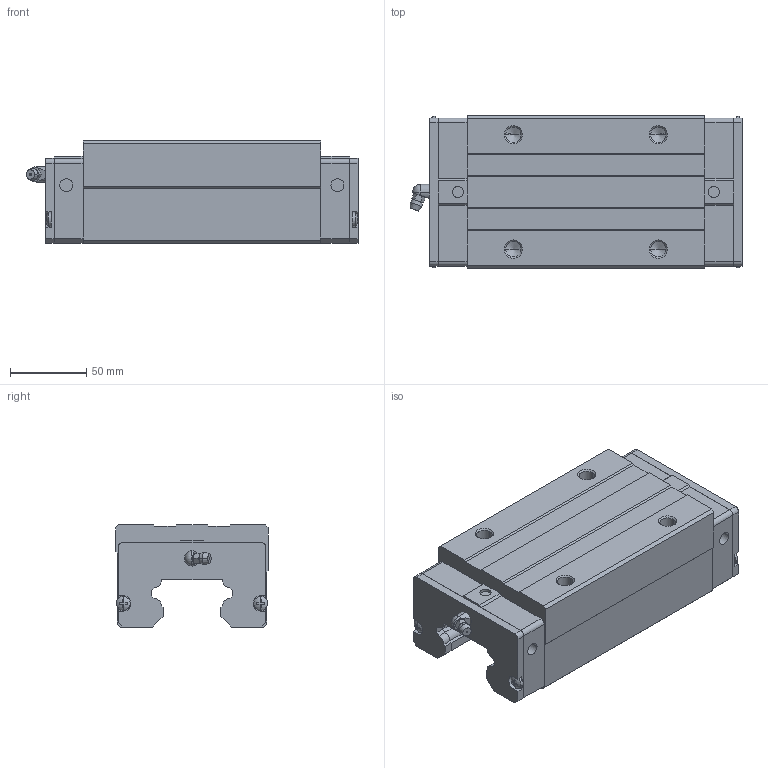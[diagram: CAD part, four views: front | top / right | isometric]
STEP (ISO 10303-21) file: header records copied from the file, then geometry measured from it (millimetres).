
FILE_DESCRIPTION(('starvars output'),'2;1');
FILE_NAME('cv20190625223742000062844.stp','22:37:42 2019/06/25',( 'Thomas Industrial Network Germany GmbH'),( 'Thomas Industrial Network Germany GmbH'),'unknown preprocess','ACIS' ,'unknown authorization');
FILE_SCHEMA(('CONFIG_CONTROL_DESIGN {UNKNOWN IMPLEMENTATION LEVEL}'));
Length unit declared in the file: millimetre
Products named in the file (10): PRODUCT_ID_1; PRODUCT_ID_2; PRODUCT_ID_3; PRODUCT_ID_4; PRODUCT_ID_5; PRODUCT_ID_6; PRODUCT_ID_7; PRODUCT_ID_8; PRODUCT_ID_9; PRODUCT_ID_10
Bounding box: 217.7 x 100 x 67 mm (x, y, z)
Volume: 1000114.6 mm3; surface area: 129530.7 mm2
Topology: 10 solids, 10 shells, 400 faces, 1017 edges, 643 vertices
Faces by surface type: plane 244, cylinder 74, cone 70, sphere 12
Entity records: 11534 total; most frequent: ORIENTED_EDGE 2010, CARTESIAN_POINT 1899, DIRECTION 1587, EDGE_CURVE 1005, VERTEX_POINT 643, VECTOR 637, LINE 637, AXIS2_PLACEMENT_3D 475
